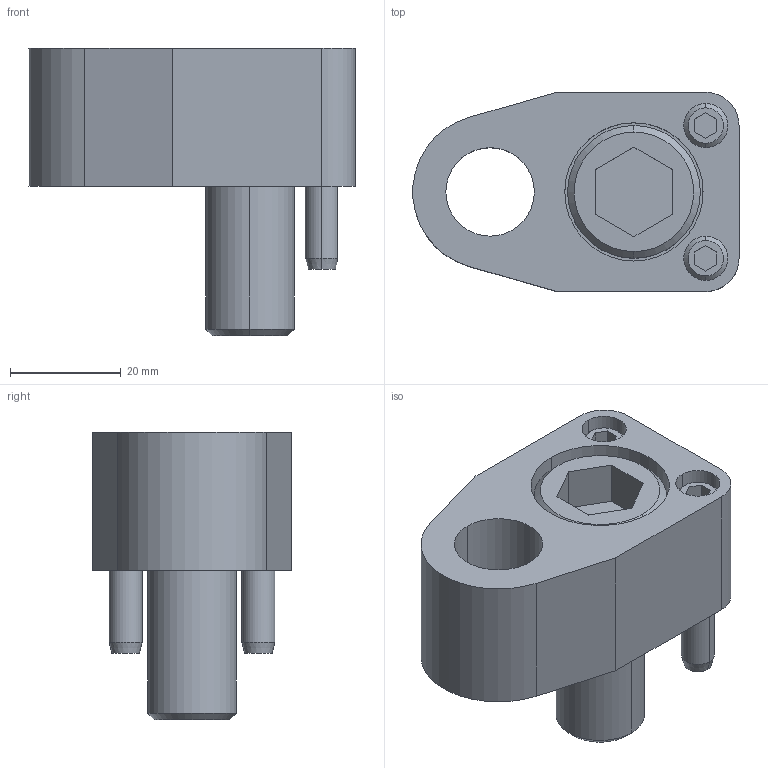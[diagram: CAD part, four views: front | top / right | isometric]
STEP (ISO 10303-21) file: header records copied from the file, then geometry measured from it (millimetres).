
FILE_DESCRIPTION(/* description */ (''),/* implementation_level */ '2;1');
FILE_NAME(/* name */ '3d_tpars16_03046_r00.stp',/* time_stamp */ '2011-01-10T14:08:58+09:00',/* author */ ('MISUMI'),/* organization */ (''),/* preprocessor_version */ 'ST-DEVELOPER v11',/* originating_system */ 'UGS - NX 5.0',/* authorisation */ '');
FILE_SCHEMA (('CONFIG_CONTROL_DESIGN'));
Length unit declared in the file: millimetre
Products named in the file (1): 3d_tpars16_03046_r00
Bounding box: 58.95 x 36 x 52 mm (x, y, z)
Volume: 44063.4 mm3; surface area: 17371.8 mm2
Topology: 6 solids, 6 shells, 112 faces, 242 edges, 154 vertices
Faces by surface type: plane 49, cylinder 41, cone 22
Entity records: 3186 total; most frequent: DIRECTION 568, CARTESIAN_POINT 557, ORIENTED_EDGE 484, EDGE_CURVE 242, AXIS2_PLACEMENT_3D 217, VERTEX_POINT 154, LINE 134, VECTOR 134
